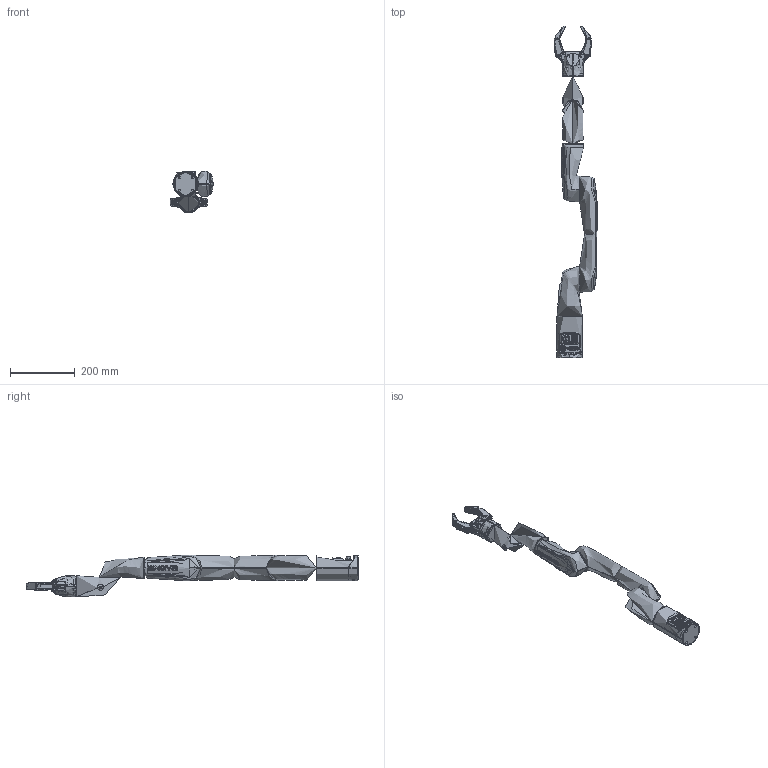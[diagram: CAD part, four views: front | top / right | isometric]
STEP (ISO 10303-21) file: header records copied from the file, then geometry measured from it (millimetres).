
FILE_DESCRIPTION (( 'STEP AP214' ), '1' );
FILE_NAME ('Gen3_lite_ARM_RIGHT_V1.STEP', '2020-03-10T12:42:32', ( '' ), ( '' ), 'SwSTEP 2.0', 'SolidWorks 2018', '' );
FILE_SCHEMA (( 'AUTOMOTIVE_DESIGN' ));
Length unit declared in the file: millimetre
Products named in the file (8): Gen3_lite_ARM_RIGHT_V1; ARM_LITE; FOREARM_LITE; SHOULDER_LITE; UPPER_WRIST_LITE; BASE_MODEL_LITE; LOWER_WRIST_LITE; GRIPPER_MODEL_LITE
Assembly tree (7 placements, depth 2):
  Gen3_lite_ARM_RIGHT_V1
    BASE_MODEL_LITE
    SHOULDER_LITE
    ARM_LITE
    FOREARM_LITE
    LOWER_WRIST_LITE
    UPPER_WRIST_LITE
    GRIPPER_MODEL_LITE
Bounding box: 134.08 x 1028.97 x 130.01 mm (x, y, z)
Volume: 3036900.7 mm3; surface area: 470714.9 mm2
Topology: 28 solids, 43 shells, 8310 faces, 21773 edges, 14119 vertices
Faces by surface type: bspline 3593, plane 2869, cylinder 1405, cone 307, torus 122, sphere 14
Entity records: 793186 total; most frequent: CARTESIAN_POINT 529425, ORIENTED_EDGE 43510, DIRECTION 23193, EDGE_CURVE 21761, VERTEX_POINT 14120, B_SPLINE_CURVE_WITH_KNOTS 10232, EDGE_LOOP 9056, FACE_OUTER_BOUND 8310
